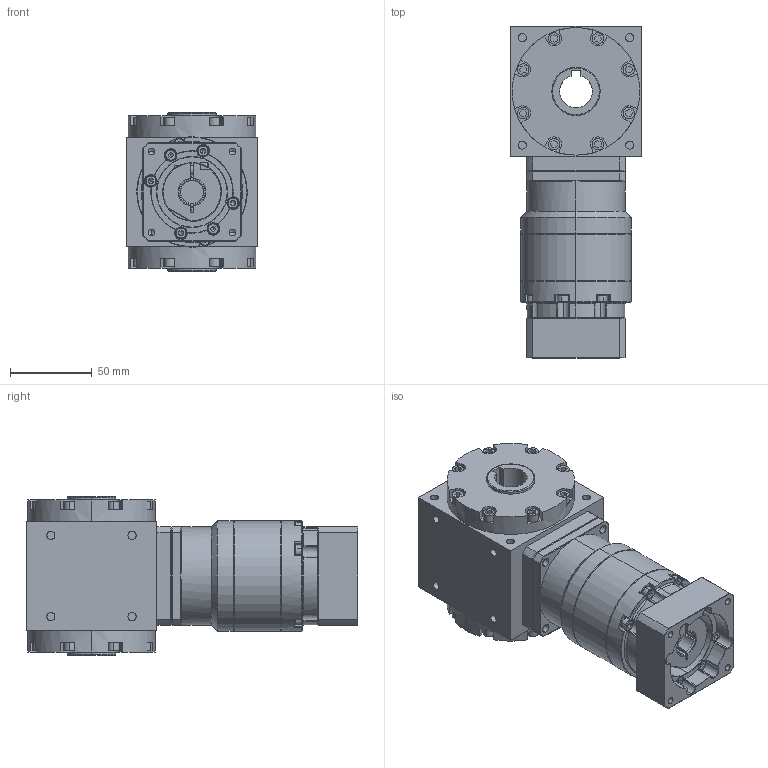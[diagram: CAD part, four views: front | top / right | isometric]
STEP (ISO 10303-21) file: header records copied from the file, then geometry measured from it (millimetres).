
FILE_DESCRIPTION (( 'STEP AP203' ), '1' );
FILE_NAME ('AAW080AS-L2-CR 14-50-70-M5.STEP', '2024-12-23T09:20:38', ( '' ), ( '' ), 'SwSTEP 2.0', 'SolidWorks 2021', '' );
FILE_SCHEMA (( 'CONFIG_CONTROL_DESIGN' ));
Length unit declared in the file: millimetre
Products named in the file (3): AAW080AS-L1-CR 14-50-70-M5; AAW080AS-L2-CR 14-50-70-M5; VRB-060-L2-S2-P1 14-50-70-M5
Assembly tree (2 placements, depth 2):
  AAW080AS-L2-CR 14-50-70-M5
    AAW080AS-L1-CR 14-50-70-M5
    VRB-060-L2-S2-P1 14-50-70-M5
Bounding box: 80 x 203 x 97 mm (x, y, z)
Volume: 810864.7 mm3; surface area: 131819 mm2
Topology: 33 solids, 33 shells, 1280 faces, 3133 edges, 1973 vertices
Faces by surface type: plane 591, cylinder 427, cone 196, torus 50, bspline 16
Entity records: 38510 total; most frequent: CARTESIAN_POINT 7696, DIRECTION 6682, ORIENTED_EDGE 6170, EDGE_CURVE 3085, AXIS2_PLACEMENT_3D 2560, VERTEX_POINT 1973, LINE 1562, VECTOR 1562
